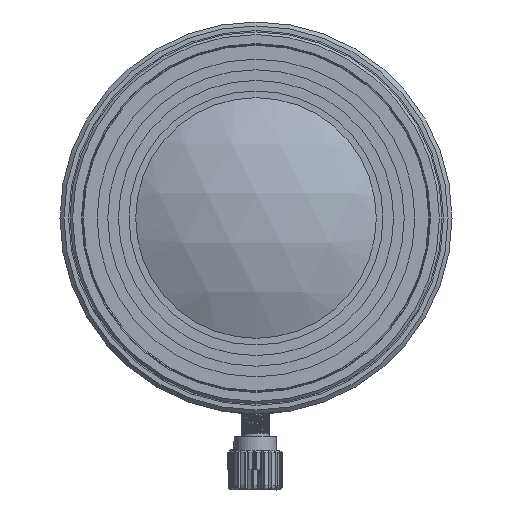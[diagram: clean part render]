
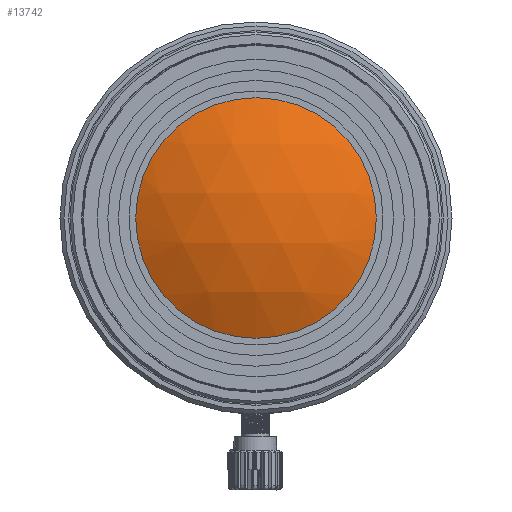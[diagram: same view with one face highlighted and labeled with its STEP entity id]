
A CAD part, left-side view. The second image highlights one B-rep face of the part: STEP entity #13742.
In plain terms, the highlighted spherical face has radius 19.737 mm.
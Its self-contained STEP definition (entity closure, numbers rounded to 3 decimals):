
#14=SPHERICAL_SURFACE('',#14994,19.737);
#1956=FACE_OUTER_BOUND('',#2768,.T.);
#2768=EDGE_LOOP('',(#11904));
#3691=CIRCLE('',#14993,9.055);
#5807=VERTEX_POINT('',#64679);
#7855=EDGE_CURVE('',#5807,#5807,#3691,.T.);
#11904=ORIENTED_EDGE('',*,*,#7855,.T.);
#13742=ADVANCED_FACE('',(#1956),#14,.T.);
#14993=AXIS2_PLACEMENT_3D('',#64680,#17792,#17793);
#14994=AXIS2_PLACEMENT_3D('',#64681,#17794,#17795);
#17792=DIRECTION('center_axis',(-1.,0.,0.));
#17793=DIRECTION('ref_axis',(0.,0.,-1.));
#17794=DIRECTION('center_axis',(0.,0.,1.));
#17795=DIRECTION('ref_axis',(-1.,0.,0.));
#64679=CARTESIAN_POINT('',(-28.938,-9.055,0.));
#64680=CARTESIAN_POINT('Origin',(-28.938,0.,0.));
#64681=CARTESIAN_POINT('Origin',(-11.401,0.,0.));
